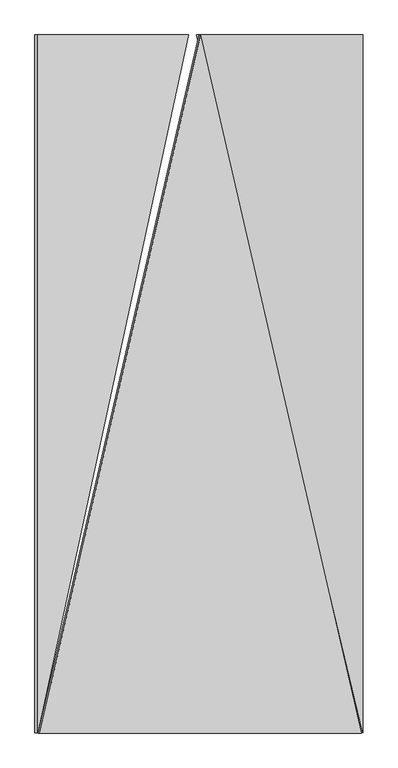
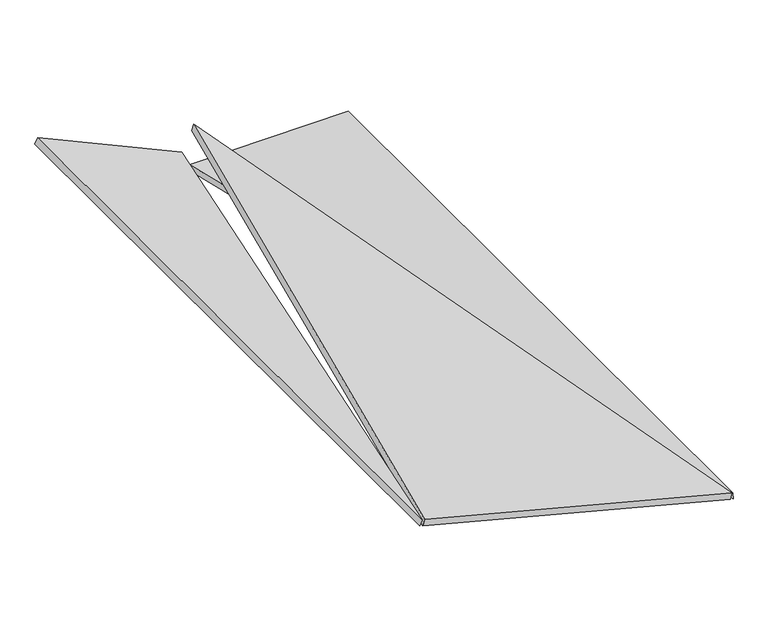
"""IFC4 building model written with IfcOpenShell, lengths in millimetres: proxy geometry, panel sufitowy 6 : panel sufitowy 6."""

from ifc_helpers import new_model, si_unit, frame, origin, place, context, project, spatial, polyline, outline, extrude, source, transform, mapped, element, save


def generic_models_1474474d(model_context):
    return source(origin(), model_context, "Body", "SweptSolid", [
        extrude(outline(polyline([(-900.9098917, 0.0), (1006.1909889, 962.7191946), (1235.4098448, 0.0), (-900.9098917, 0.0)])), frame((529.0326252, 1457.4151922, 1047.1876511), z_axis=(0.2503800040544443, 0.0, 0.968147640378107), x_axis=(-0.22424286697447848, -0.9728062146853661, 0.0579931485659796)), (0.0, 0.0, 1.0), 20.0),
        extrude(outline(polyline([(-127.5, 0.0), (-127.5, -2079.0), (-622.5, 0.0), (-127.5, 0.0)])), frame((1347.1943102, 2335.0, 869.6817722), z_axis=(-0.008726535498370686, 0.0, 0.9999619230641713), x_axis=(0.9999619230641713, 0.0, 0.008726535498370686)), (0.0, 0.0, 1.0), 20.0),
        extrude(outline(polyline([(-127.5, 0.0), (-622.5, 0.0), (-127.5, 2079.0), (-127.5, 0.0)])), frame((125.8499862, 2335.0, 1174.3263315), z_axis=(0.4146932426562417, 0.0, 0.9099612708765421), x_axis=(-0.9099612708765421, 0.0, 0.4146932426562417)), (0.0, 0.0, 1.0), 20.0),
    ])


if __name__ == "__main__":
    model = new_model("IFC4")
    model_context = context("Model", 3, world=origin())
    ifc_project = project(units=[si_unit("LENGTHUNIT", "METRE", prefix="MILLI")], contexts=[model_context])
    site = spatial("IfcSite", under=ifc_project)
    building = spatial("IfcBuilding", under=site)
    placement = place(None, origin())
    generic_models_shape = generic_models_1474474d(model_context)
    element("IfcBuildingElementProxy", 1, Name="panel sufitowy 6 : panel sufitowy 6", ObjectType="panel sufitowy 6 : panel sufitowy 6", at=placement, inside=building, context=model_context, shape_type="MappedRepresentation", body=[
        mapped(generic_models_shape, transform((0.0, 0.0, 0.0), x_axis=(1.0, 0.0, 0.0), y_axis=(0.0, 1.0, 0.0), z_axis=(0.0, 0.0, 1.0))),
    ])
    save(model, "model.ifc")
